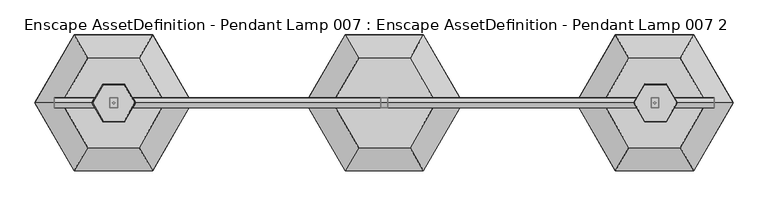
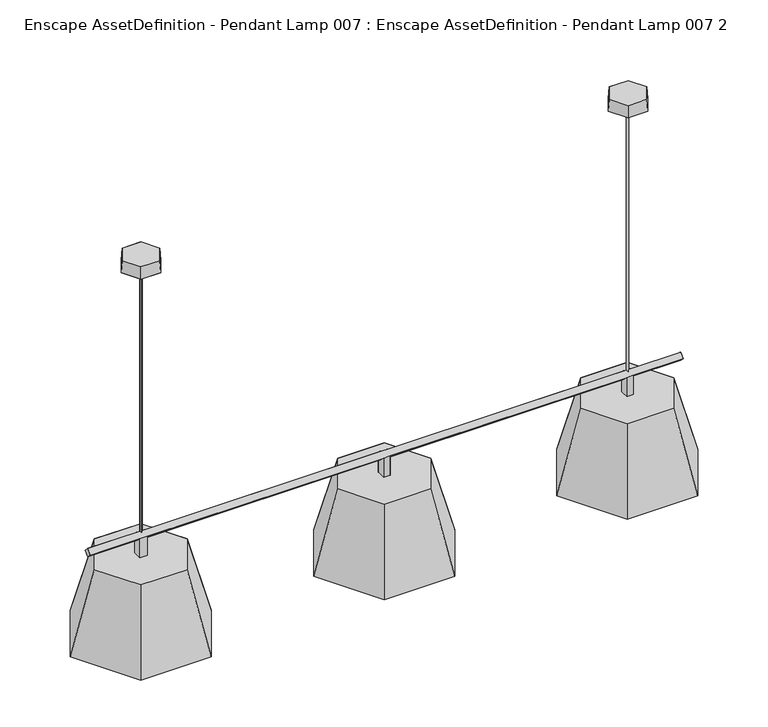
"""IFC4 building model written with IfcOpenShell, lengths in millimetres: geographic element geometry, Enscape AssetDefinition - Pendant Lamp 007 : Enscape AssetDefinition - Pendant Lamp 007 2."""

from ifc_helpers import new_model, si_unit, origin, place, context, project, spatial, triangles, source, transform, mapped, element, save


def enscape_assetdefinition_pendant_lamp_007_enscape_1d66599b(model_context):
    return source(origin(), model_context, "Body", "Tessellation", [
        triangles([(105.5781214, -182.8666542, -1199.9999365), (-105.5781214, -182.8666542, -1199.9999365), (69.3049221, -120.039666, -948.8598152), (-211.1562973, 3.46e-05, -1199.9999365), (211.1562973, 5.31e-05, -1199.9999365), (69.3049221, 120.0397478, -948.8598152), (-105.5781214, 182.866745, -1199.9999365), (105.5781214, 182.866745, -1199.9999365), (-69.3049221, -120.039666, -948.8598152), (-138.6098988, 3.8e-05, -948.8598152), (138.6098988, 5.02e-05, -948.8598152), (-69.3049221, 120.0397478, -948.8598152), (-887.5750385, -13.3433375, -888.177182), (-887.5750385, 13.3434147, -888.177182), (-739.3095245, 13.3434147, -888.177182), (-887.5750385, 4.1e-05, -901.5204809), (-887.5750385, 3.78e-05, -874.8336651), (-739.3094519, 4.1e-05, -901.5204809), (-739.3095245, -13.3433375, -888.177182), (-739.3095245, 13.3434147, -971.3191275), (-739.3094519, 3.96e-05, -971.3191275), (-739.3095245, -13.3433375, -971.3191275), (-739.3095245, 3.78e-05, -874.8336651), (-717.1971388, 3.78e-05, -874.8336651), (-9.8311461, 3.78e-05, -874.8336651), (-717.1971388, 13.3434147, -888.177182), (-9.8311461, 13.3434159, -888.177182), (-717.1970661, 4.1e-05, -901.5204809), (-717.1970661, 3.96e-05, -971.3191275), (-9.831053, 4.1e-05, -901.5204809), (-9.8311461, -13.3433387, -888.177182), (-717.1971388, -13.3433375, -888.177182), (-717.1971388, -13.3433375, -971.3191275), (-9.8311461, 13.3434159, -971.3191275), (9.7748315, 13.3434159, -888.177182), (9.7748315, 13.3434159, -971.3191275), (9.7749234, 3.96e-05, -971.3191275), (9.7749234, 4.1e-05, -901.5204809), (9.7748315, -13.3433387, -971.3191275), (718.0033396, 4.1e-05, -901.5204809), (9.7748315, -13.3433387, -888.177182), (-9.831053, 3.96e-05, -971.3191275), (-9.8311461, -13.3433387, -971.3191275), (718.0033396, -13.3433375, -888.177182), (718.0033396, 3.96e-05, -971.3191275), (9.7748315, 3.78e-05, -874.8336651), (738.3827642, -13.3433375, -888.177182), (718.0033396, 3.78e-05, -874.8336651), (887.7411621, -13.3433375, -888.177182), (738.3827642, 3.78e-05, -874.8336651), (738.3827642, 13.3434147, -888.177182), (718.0033396, 13.3434147, -888.177182), (738.3827642, 13.3434147, -971.3191275), (887.7411621, 3.78e-05, -874.8336651), (738.3827642, 3.96e-05, -971.3191275), (887.7411621, 13.3434147, -888.177182), (887.7411621, 4.1e-05, -901.5204809), (738.3827642, 4.1e-05, -901.5204809), (738.3827642, -13.3433375, -971.3191275), (718.0033396, -13.3433375, -971.3191275), (718.0033396, 13.3434147, -971.3191275), (-717.1971388, 13.3434147, -971.3191275), (-698.7736267, -51.0117164, -37.0673573), (-669.321936, 4.84e-05, -37.0673573), (-757.6768627, -51.0117164, -37.0673573), (-756.5421209, -49.0462659, 9.25e-05), (-698.7736267, 51.0118118, -37.0673573), (-784.8589245, 4.4e-05, 9.25e-05), (-756.5421209, 49.0463522, 9.25e-05), (-757.6768627, 51.0117891, -37.0673573), (-787.1286261, 4.33e-05, -37.0673573), (-699.9082958, -49.0462659, 9.25e-05), (-671.5914923, 4.9e-05, 9.25e-05), (-699.9082958, 49.0463522, 9.25e-05), (788.7998177, 4.84e-05, -37.0673573), (786.5301161, 4.9e-05, 9.25e-05), (758.2133125, -49.0462659, 9.25e-05), (759.3480543, -51.0117164, -37.0673573), (670.9932003, 4.33e-05, -37.0673573), (700.4447456, -51.0117164, -37.0673573), (758.2133125, 49.0463522, 9.25e-05), (673.2626112, 4.4e-05, 9.25e-05), (759.3480543, 51.0118118, -37.0673573), (700.4447456, 51.0117891, -37.0673573), (701.5795601, -49.0462659, 9.25e-05), (701.5795601, 49.0463522, 9.25e-05), (724.2309391, -4.92e-05, -31.2214319), (727.8699612, -3.6391515, -31.2214319), (727.8699612, 3.6390533, -31.2214319), (727.8699612, 3.6391924, -896.4332188), (727.8699612, -3.639013, -896.4332188), (724.2309391, 8.98e-05, -896.4332188), (731.5091286, -4.88e-05, -31.2214319), (731.5091286, 9.01e-05, -896.4332188), (-731.6506897, -4.92e-05, -31.2214319), (-731.6506897, 8.98e-05, -896.4332188), (-728.0115223, -3.6391515, -31.2214319), (-728.0115223, 3.6390533, -31.2214319), (-724.3724276, -4.88e-05, -31.2214319), (-728.0115223, -3.639013, -896.4332188), (-728.0115223, 3.6391924, -896.4332188), (-724.3724276, 9.01e-05, -896.4332188), (833.1053982, -182.8666542, -1199.9999365), (621.9491009, -182.8666542, -1199.9999365), (658.2223228, -120.039666, -948.8598152), (796.8322489, 120.0397478, -948.8598152), (938.6835468, 5.31e-05, -1199.9999365), (833.1053982, 182.866745, -1199.9999365), (658.2223228, 120.0397478, -948.8598152), (621.9491009, 182.8667087, -1199.9999365), (516.3709522, 3.46e-05, -1199.9999365), (588.9173962, 3.8e-05, -948.8598152), (796.8322489, -120.039666, -948.8598152), (866.1371029, 5.02e-05, -948.8598152), (-623.3566458, -182.8666542, -1199.9999365), (-517.7784971, 5.31e-05, -1199.9999365), (-834.5129431, -182.8666542, -1199.9999365), (-659.6298677, -120.039666, -948.8598152), (-940.0911644, 3.46e-05, -1199.9999365), (-623.3566458, 182.866745, -1199.9999365), (-867.5446478, 3.8e-05, -948.8598152), (-798.2397938, 120.0397478, -948.8598152), (-834.5129431, 182.8667087, -1199.9999365), (-798.2397938, -120.039666, -948.8598152), (-590.3249411, 5.02e-05, -948.8598152), (-659.6298677, 120.0397478, -948.8598152)], [[120, 122, 126], [125, 126, 122], [125, 122, 124], [118, 125, 124], [122, 121, 124], [119, 124, 121], [123, 119, 121], [120, 123, 122], [123, 121, 122], [116, 120, 126], [123, 120, 116], [116, 126, 125], [119, 117, 124], [117, 123, 116], [117, 119, 123], [117, 118, 124], [115, 116, 125], [117, 115, 118], [115, 125, 118], [115, 117, 116], [108, 109, 106], [114, 106, 109], [114, 109, 105], [113, 114, 105], [109, 112, 105], [111, 105, 112], [110, 111, 112], [108, 110, 109], [110, 112, 109], [107, 108, 106], [110, 108, 107], [107, 106, 114], [111, 104, 105], [104, 110, 107], [104, 111, 110], [104, 113, 105], [103, 107, 114], [104, 103, 113], [103, 114, 113], [103, 104, 107], [101, 98, 99], [99, 102, 101], [102, 99, 97], [97, 100, 102], [96, 101, 102], [102, 100, 96], [98, 101, 96], [99, 98, 95], [96, 95, 98], [100, 97, 95], [97, 99, 95], [95, 96, 100], [90, 89, 93], [93, 94, 90], [94, 93, 88], [88, 91, 94], [92, 90, 94], [94, 91, 92], [89, 90, 92], [93, 89, 87], [92, 87, 89], [91, 88, 87], [88, 93, 87], [87, 92, 91], [83, 86, 81], [76, 81, 86], [76, 86, 85], [77, 76, 85], [86, 82, 85], [79, 85, 82], [84, 79, 82], [83, 84, 86], [84, 82, 86], [75, 83, 81], [84, 83, 75], [75, 81, 76], [79, 80, 85], [80, 84, 75], [80, 79, 84], [80, 77, 85], [78, 75, 76], [80, 78, 77], [78, 76, 77], [78, 80, 75], [67, 69, 74], [73, 74, 69], [73, 69, 66], [72, 73, 66], [69, 68, 66], [71, 66, 68], [70, 71, 68], [67, 70, 69], [70, 68, 69], [64, 67, 74], [70, 67, 64], [64, 74, 73], [71, 65, 66], [65, 70, 64], [65, 71, 70], [65, 72, 66], [63, 64, 73], [65, 63, 72], [63, 73, 72], [63, 65, 64], [15, 62, 20], [40, 61, 45], [47, 60, 59], [58, 47, 59], [58, 59, 55], [56, 57, 58], [58, 57, 47], [57, 49, 47], [57, 56, 54], [54, 49, 57], [51, 58, 55], [54, 56, 51], [51, 55, 53], [51, 56, 58], [40, 52, 61], [52, 51, 53], [52, 53, 61], [50, 51, 52], [49, 54, 50], [50, 54, 51], [47, 49, 50], [48, 52, 35], [47, 50, 48], [48, 50, 52], [46, 35, 27], [46, 48, 35], [44, 40, 45], [47, 44, 60], [44, 48, 46], [44, 45, 60], [44, 47, 48], [31, 42, 43], [41, 31, 43], [40, 44, 41], [41, 44, 46], [41, 43, 39], [38, 41, 39], [52, 40, 38], [35, 52, 38], [38, 40, 41], [35, 38, 37], [38, 39, 37], [27, 35, 36], [35, 37, 36], [27, 36, 34], [32, 22, 33], [30, 27, 34], [31, 30, 42], [30, 31, 32], [30, 34, 42], [28, 32, 33], [27, 30, 28], [28, 33, 29], [28, 30, 32], [26, 28, 29], [15, 26, 62], [26, 29, 62], [26, 27, 28], [25, 27, 26], [41, 46, 25], [25, 46, 27], [31, 41, 25], [24, 26, 15], [31, 25, 24], [24, 25, 26], [32, 31, 24], [32, 24, 23], [23, 24, 15], [23, 15, 14], [17, 23, 14], [32, 19, 22], [19, 23, 17], [19, 21, 22], [19, 32, 23], [18, 15, 20], [19, 18, 21], [18, 20, 21], [18, 19, 13], [13, 19, 17], [17, 14, 16], [15, 18, 16], [13, 17, 16], [14, 15, 16], [16, 18, 13], [8, 12, 6], [11, 6, 12], [11, 12, 9], [3, 11, 9], [12, 10, 9], [4, 9, 10], [7, 4, 10], [8, 7, 12], [7, 10, 12], [5, 8, 6], [7, 8, 5], [5, 6, 11], [4, 2, 9], [2, 7, 5], [2, 4, 7], [2, 3, 9], [1, 5, 11], [2, 1, 3], [1, 11, 3], [1, 2, 5]], closed=False),
    ])


if __name__ == "__main__":
    model = new_model("IFC4")
    model_context = context("Model", 3, world=origin())
    ifc_project = project(units=[si_unit("LENGTHUNIT", "METRE", prefix="MILLI")], contexts=[model_context])
    site = spatial("IfcSite", under=ifc_project)
    building = spatial("IfcBuilding", under=site)
    placement = place(None, origin())
    enscape_assetdefinition_pendant_lamp_007_enscape_shape = enscape_assetdefinition_pendant_lamp_007_enscape_1d66599b(model_context)
    element("IfcGeographicElement", 1, ObjectType="Enscape AssetDefinition - Pendant Lamp 007 : Enscape AssetDefinition - Pendant Lamp 007 2", at=placement, inside=building, context=model_context, shape_type="MappedRepresentation", body=[
        mapped(enscape_assetdefinition_pendant_lamp_007_enscape_shape, transform((0.0, 0.0, 0.0), x_axis=(1.0, 0.0, 0.0), y_axis=(0.0, 1.0, 0.0), z_axis=(0.0, 0.0, 1.0))),
    ])
    save(model, "model.ifc")
